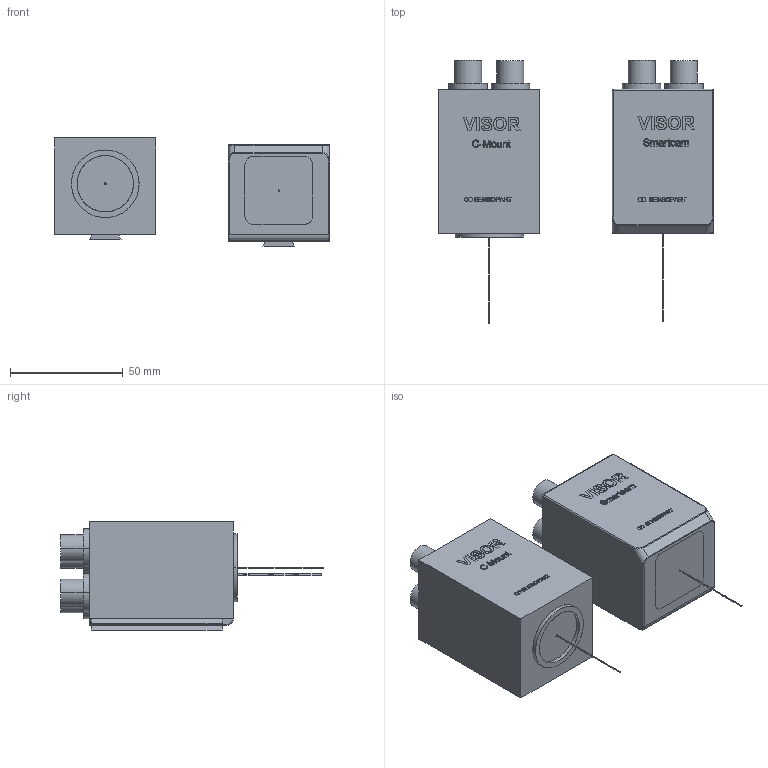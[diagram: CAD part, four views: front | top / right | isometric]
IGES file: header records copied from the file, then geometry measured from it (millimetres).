
Global section: file name: O:\Archiv\ARCHIV\153\3D-Model Kunde (DXF, IGS, SAT)\15300962 V10.igs; native system: AutoCAD-17.2s (LMS Tech) (Microsoft Windows NT Version 5.1 (x86)); preprocessor: Autodesk IGES Translator Mechanical Desktop 2009 (Feb 21 2008) from Autodesk, Inc.; date: 20110812.103214; units: millimetre
Bounding box: 122 x 116.7 x 48 mm (x, y, z)
Surface area: 39930.1 mm2 (no closed solid volume)
Topology: 0 solids, 0 shells, 1212 faces, 14661 edges, 14661 vertices
Faces by surface type: bspline 1212
